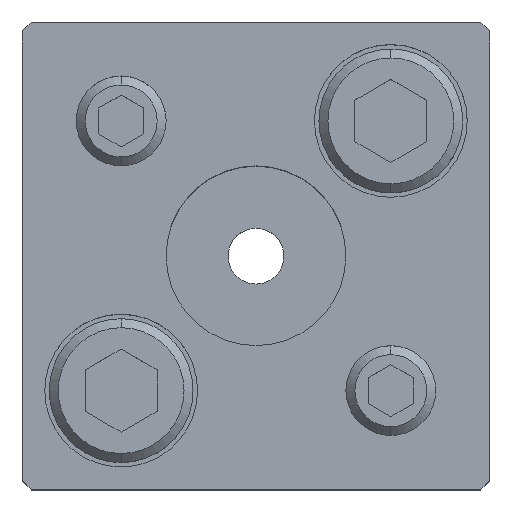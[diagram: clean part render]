
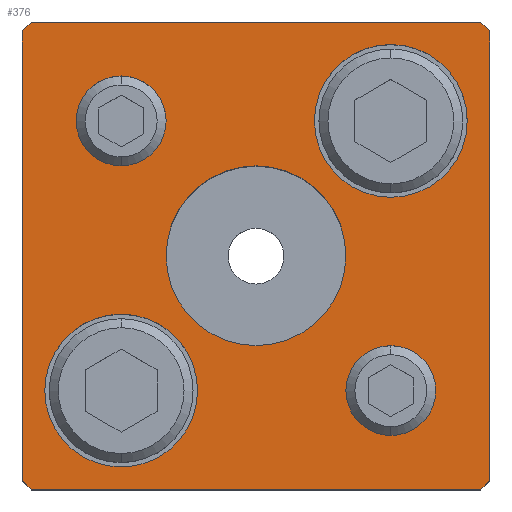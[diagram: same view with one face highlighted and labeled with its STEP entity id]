
A CAD part, top view. The second image highlights one B-rep face of the part: STEP entity #376.
In plain terms, the highlighted planar face has unit normal (0, 0, 1).
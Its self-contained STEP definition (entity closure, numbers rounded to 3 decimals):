
#139=PLANE('',#2852);
#200=FACE_BOUND('',#707,.T.);
#201=FACE_BOUND('',#708,.T.);
#202=FACE_BOUND('',#709,.T.);
#203=FACE_BOUND('',#710,.T.);
#204=FACE_BOUND('',#711,.T.);
#205=FACE_BOUND('',#712,.T.);
#376=ADVANCED_FACE('',(#200,#201,#202,#203,#204,#205),#139,.T.);
#707=EDGE_LOOP('',(#1263,#1264,#1265,#1266,#1267,#1268,#1269,#1270));
#708=EDGE_LOOP('',(#1271,#1272));
#709=EDGE_LOOP('',(#1273,#1274));
#710=EDGE_LOOP('',(#1275,#1276));
#711=EDGE_LOOP('',(#1277,#1278));
#712=EDGE_LOOP('',(#1279,#1280));
#881=CIRCLE('',#2822,5.);
#883=CIRCLE('',#2825,5.);
#885=CIRCLE('',#2828,5.);
#887=CIRCLE('',#2831,5.);
#897=CIRCLE('',#2846,8.5);
#898=CIRCLE('',#2847,8.5);
#899=CIRCLE('',#2848,8.5);
#900=CIRCLE('',#2849,8.5);
#901=CIRCLE('',#2850,10.);
#902=CIRCLE('',#2851,10.);
#1263=ORIENTED_EDGE('',*,*,#2069,.T.);
#1264=ORIENTED_EDGE('',*,*,#2070,.T.);
#1265=ORIENTED_EDGE('',*,*,#2071,.T.);
#1266=ORIENTED_EDGE('',*,*,#2072,.T.);
#1267=ORIENTED_EDGE('',*,*,#2073,.T.);
#1268=ORIENTED_EDGE('',*,*,#2074,.T.);
#1269=ORIENTED_EDGE('',*,*,#2075,.T.);
#1270=ORIENTED_EDGE('',*,*,#2076,.T.);
#1271=ORIENTED_EDGE('',*,*,#2077,.F.);
#1272=ORIENTED_EDGE('',*,*,#2078,.F.);
#1273=ORIENTED_EDGE('',*,*,#2079,.F.);
#1274=ORIENTED_EDGE('',*,*,#2080,.F.);
#1275=ORIENTED_EDGE('',*,*,#2055,.F.);
#1276=ORIENTED_EDGE('',*,*,#2051,.F.);
#1277=ORIENTED_EDGE('',*,*,#2049,.F.);
#1278=ORIENTED_EDGE('',*,*,#2045,.F.);
#1279=ORIENTED_EDGE('',*,*,#2081,.T.);
#1280=ORIENTED_EDGE('',*,*,#2082,.T.);
#1763=VERTEX_POINT('',#4143);
#1764=VERTEX_POINT('',#4144);
#1767=VERTEX_POINT('',#4155);
#1768=VERTEX_POINT('',#4156);
#1779=VERTEX_POINT('',#4191);
#1780=VERTEX_POINT('',#4192);
#1781=VERTEX_POINT('',#4194);
#1782=VERTEX_POINT('',#4196);
#1783=VERTEX_POINT('',#4198);
#1784=VERTEX_POINT('',#4200);
#1785=VERTEX_POINT('',#4202);
#1786=VERTEX_POINT('',#4204);
#1787=VERTEX_POINT('',#4207);
#1788=VERTEX_POINT('',#4208);
#1789=VERTEX_POINT('',#4211);
#1790=VERTEX_POINT('',#4212);
#1791=VERTEX_POINT('',#4215);
#1792=VERTEX_POINT('',#4216);
#2045=EDGE_CURVE('',#1763,#1764,#881,.T.);
#2049=EDGE_CURVE('',#1764,#1763,#883,.T.);
#2051=EDGE_CURVE('',#1767,#1768,#885,.T.);
#2055=EDGE_CURVE('',#1768,#1767,#887,.T.);
#2069=EDGE_CURVE('',#1779,#1780,#2347,.T.);
#2070=EDGE_CURVE('',#1780,#1781,#2348,.T.);
#2071=EDGE_CURVE('',#1781,#1782,#2349,.T.);
#2072=EDGE_CURVE('',#1782,#1783,#2350,.T.);
#2073=EDGE_CURVE('',#1783,#1784,#2351,.T.);
#2074=EDGE_CURVE('',#1784,#1785,#2352,.T.);
#2075=EDGE_CURVE('',#1785,#1786,#2353,.T.);
#2076=EDGE_CURVE('',#1786,#1779,#2354,.T.);
#2077=EDGE_CURVE('',#1787,#1788,#897,.T.);
#2078=EDGE_CURVE('',#1788,#1787,#898,.T.);
#2079=EDGE_CURVE('',#1789,#1790,#899,.T.);
#2080=EDGE_CURVE('',#1790,#1789,#900,.T.);
#2081=EDGE_CURVE('',#1791,#1792,#901,.T.);
#2082=EDGE_CURVE('',#1792,#1791,#902,.T.);
#2347=LINE('',#4190,#2563);
#2348=LINE('',#4193,#2564);
#2349=LINE('',#4195,#2565);
#2350=LINE('',#4197,#2566);
#2351=LINE('',#4199,#2567);
#2352=LINE('',#4201,#2568);
#2353=LINE('',#4203,#2569);
#2354=LINE('',#4205,#2570);
#2563=VECTOR('',#3379,1.);
#2564=VECTOR('',#3380,1.);
#2565=VECTOR('',#3381,1.);
#2566=VECTOR('',#3382,1.);
#2567=VECTOR('',#3383,1.);
#2568=VECTOR('',#3384,1.);
#2569=VECTOR('',#3385,1.);
#2570=VECTOR('',#3386,1.);
#2822=AXIS2_PLACEMENT_3D('',#4142,#3323,#3324);
#2825=AXIS2_PLACEMENT_3D('',#4151,#3331,#3332);
#2828=AXIS2_PLACEMENT_3D('',#4154,#3337,#3338);
#2831=AXIS2_PLACEMENT_3D('',#4163,#3345,#3346);
#2846=AXIS2_PLACEMENT_3D('',#4206,#3387,#3388);
#2847=AXIS2_PLACEMENT_3D('',#4209,#3389,#3390);
#2848=AXIS2_PLACEMENT_3D('',#4210,#3391,#3392);
#2849=AXIS2_PLACEMENT_3D('',#4213,#3393,#3394);
#2850=AXIS2_PLACEMENT_3D('',#4214,#3395,#3396);
#2851=AXIS2_PLACEMENT_3D('',#4217,#3397,#3398);
#2852=AXIS2_PLACEMENT_3D('',#4218,#3399,#3400);
#3323=DIRECTION('',(0.,0.,1.));
#3324=DIRECTION('',(1.,0.,0.));
#3331=DIRECTION('',(0.,0.,1.));
#3332=DIRECTION('',(-1.,0.,0.));
#3337=DIRECTION('',(0.,0.,1.));
#3338=DIRECTION('',(1.,0.,0.));
#3345=DIRECTION('',(0.,0.,1.));
#3346=DIRECTION('',(-1.,0.,0.));
#3379=DIRECTION('',(1.,0.,0.));
#3380=DIRECTION('',(0.707,0.707,0.));
#3381=DIRECTION('',(0.,1.,0.));
#3382=DIRECTION('',(-0.707,0.707,0.));
#3383=DIRECTION('',(-1.,0.,0.));
#3384=DIRECTION('',(-0.707,-0.707,0.));
#3385=DIRECTION('',(0.,-1.,0.));
#3386=DIRECTION('',(0.707,-0.707,0.));
#3387=DIRECTION('',(0.,0.,1.));
#3388=DIRECTION('',(1.,0.,0.));
#3389=DIRECTION('',(0.,0.,1.));
#3390=DIRECTION('',(-1.,0.,0.));
#3391=DIRECTION('',(0.,0.,1.));
#3392=DIRECTION('',(1.,0.,0.));
#3393=DIRECTION('',(0.,0.,1.));
#3394=DIRECTION('',(-1.,0.,0.));
#3395=DIRECTION('',(0.,0.,-1.));
#3396=DIRECTION('',(-1.,0.,0.));
#3397=DIRECTION('',(0.,0.,-1.));
#3398=DIRECTION('',(1.,0.,0.));
#3399=DIRECTION('',(0.,0.,1.));
#3400=DIRECTION('',(-1.,0.,0.));
#4142=CARTESIAN_POINT('',(15.,-15.,35.));
#4143=CARTESIAN_POINT('',(15.,-10.,35.));
#4144=CARTESIAN_POINT('',(15.,-20.,35.));
#4151=CARTESIAN_POINT('',(15.,-15.,35.));
#4154=CARTESIAN_POINT('',(-15.,15.,35.));
#4155=CARTESIAN_POINT('',(-15.,20.,35.));
#4156=CARTESIAN_POINT('',(-15.,10.,35.));
#4163=CARTESIAN_POINT('',(-15.,15.,35.));
#4190=CARTESIAN_POINT('',(25.,-26.,35.));
#4191=CARTESIAN_POINT('',(-25.,-26.,35.));
#4192=CARTESIAN_POINT('',(25.,-26.,35.));
#4193=CARTESIAN_POINT('',(26.,-25.,35.));
#4194=CARTESIAN_POINT('',(26.,-25.,35.));
#4195=CARTESIAN_POINT('',(26.,25.,35.));
#4196=CARTESIAN_POINT('',(26.,25.,35.));
#4197=CARTESIAN_POINT('',(25.,26.,35.));
#4198=CARTESIAN_POINT('',(25.,26.,35.));
#4199=CARTESIAN_POINT('',(-25.,26.,35.));
#4200=CARTESIAN_POINT('',(-25.,26.,35.));
#4201=CARTESIAN_POINT('',(-26.,25.,35.));
#4202=CARTESIAN_POINT('',(-26.,25.,35.));
#4203=CARTESIAN_POINT('',(-26.,-25.,35.));
#4204=CARTESIAN_POINT('',(-26.,-25.,35.));
#4205=CARTESIAN_POINT('',(-26.,-25.,35.));
#4206=CARTESIAN_POINT('',(-15.,-15.,35.));
#4207=CARTESIAN_POINT('',(-15.,-6.5,35.));
#4208=CARTESIAN_POINT('',(-15.,-23.5,35.));
#4209=CARTESIAN_POINT('',(-15.,-15.,35.));
#4210=CARTESIAN_POINT('',(15.,15.,35.));
#4211=CARTESIAN_POINT('',(15.,23.5,35.));
#4212=CARTESIAN_POINT('',(15.,6.5,35.));
#4213=CARTESIAN_POINT('',(15.,15.,35.));
#4214=CARTESIAN_POINT('',(0.,0.,35.));
#4215=CARTESIAN_POINT('',(0.,10.,35.));
#4216=CARTESIAN_POINT('',(0.,-10.,35.));
#4217=CARTESIAN_POINT('',(0.,0.,35.));
#4218=CARTESIAN_POINT('',(-25.,-26.,35.));
